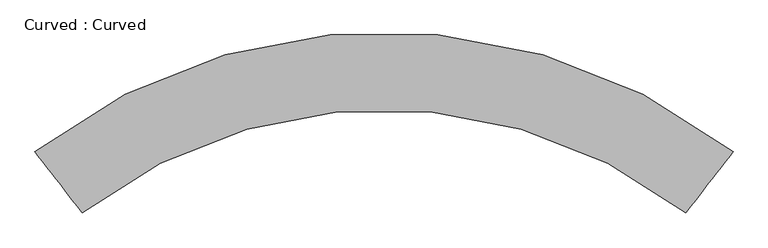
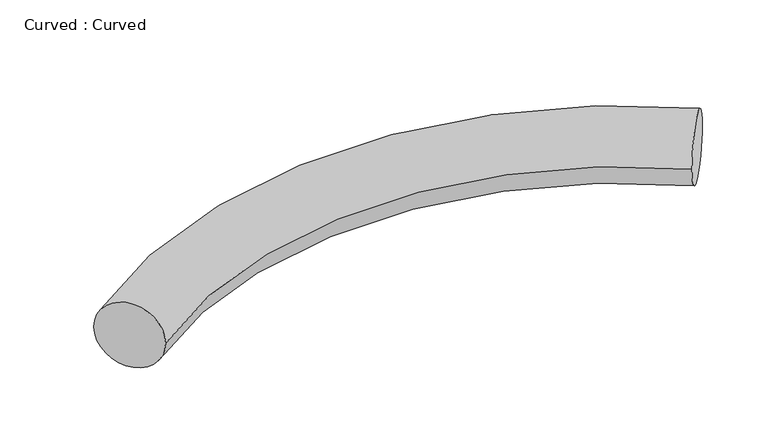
"""IFC4 building model written with IfcOpenShell, lengths in millimetres: proxy geometry, Curved : Curved."""

from ifc_helpers import new_model, si_unit, point, frame, origin, place, context, project, spatial, circle_curve, ellipse_curve, trimmed, source, transform, mapped, element, save
from ifc_brep_helpers import plane_surface, revolved_surface, advanced_brep


def curved_curved_8e5862ca(model_context):
    return source(origin(), model_context, "Body", "AdvancedBrep", [
        advanced_brep(
        [(18524.5761907, -8345.476282, 0.0), (18328.6023349, -8092.5054382, 0.0), (21028.6023349, -8345.476282, 0.0), (21224.5761907, -8092.5054382, 0.0)],
        [
            (0, 1, circle_curve(frame((18426.5892628, -8218.9908601, 0.0), z_axis=(-0.7905338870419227, -0.6124182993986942, 0.0), x_axis=(-0.6124182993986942, 0.7905338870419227, 0.0)), 160.0)),
            (1, 0, circle_curve(frame((18426.5892628, -8218.9908601, 0.0), z_axis=(-0.7905338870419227, -0.6124182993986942, 0.0), x_axis=(-0.6124182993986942, 0.7905338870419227, 0.0)), 160.0)),
            (2, 3, circle_curve(frame((21126.5892628, -8218.9908601, 0.0), z_axis=(0.790533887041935, -0.6124182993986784, 0.0), x_axis=(0.6124182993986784, 0.790533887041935, 0.0)), 160.0)),
            (3, 2, circle_curve(frame((21126.5892628, -8218.9908601, 0.0), z_axis=(0.790533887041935, -0.6124182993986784, 0.0), x_axis=(0.6124182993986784, 0.790533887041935, 0.0)), 160.0)),
            (3, 1, circle_curve(frame((19776.5892628, -9961.6245282, 0.0), z_axis=(0.0, 0.0, 1.0), x_axis=(-0.6124182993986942, 0.7905338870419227, 0.0)), 2364.3756715)),
            (0, 2, circle_curve(frame((19776.5892628, -9961.6245282, 0.0), z_axis=(0.0, 0.0, -1.0), x_axis=(-0.6124182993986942, 0.7905338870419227, 0.0)), 2044.3756715)),
        ],
        [
            plane_surface(frame((18426.5892628, -8218.9908601, 0.0), z_axis=(-0.7905338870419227, -0.6124182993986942, 0.0), x_axis=(0.0, 0.0, 1.0))),
            plane_surface(frame((21126.5892628, -8218.9908601, 0.0), z_axis=(0.790533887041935, -0.6124182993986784, 0.0), x_axis=(0.0, 0.0, 1.0))),
            revolved_surface(trimmed(ellipse_curve(frame((18426.5892628, -8218.9908601, 0.0), z_axis=(-0.7905338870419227, -0.6124182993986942, 0.0), x_axis=(-0.6124182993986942, 0.7905338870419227, 0.0)), 160.0, 160.0), [point((18524.5761907, -8345.476282, 0.0))], [point((18328.6023349, -8092.5054382, 0.0))], True, "CARTESIAN"), (19776.5892628, -9961.6245282, 0.0), (0.0, 0.0, -1.0)),
            revolved_surface(trimmed(ellipse_curve(frame((18426.5892628, -8218.9908601, 0.0), z_axis=(-0.7905338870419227, -0.6124182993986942, 0.0), x_axis=(-0.6124182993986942, 0.7905338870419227, 0.0)), 160.0, 160.0), [point((18328.6023349, -8092.5054382, 0.0))], [point((18524.5761907, -8345.476282, 0.0))], True, "CARTESIAN"), (19776.5892628, -9961.6245282, 0.0), (0.0, 0.0, -1.0)),
        ],
        [
            (0, [[1, 2]]),
            (1, [[3, 4]]),
            (2, [[5, -1, 6, -4]]),
            (3, [[-6, -2, -5, -3]]),
        ],
    ),
    ])


if __name__ == "__main__":
    model = new_model("IFC4")
    model_context = context("Model", 3, world=origin())
    ifc_project = project(units=[si_unit("LENGTHUNIT", "METRE", prefix="MILLI")], contexts=[model_context])
    site = spatial("IfcSite", under=ifc_project)
    building = spatial("IfcBuilding", under=site)
    placement = place(None, origin())
    curved_curved_shape = curved_curved_8e5862ca(model_context)
    element("IfcBuildingElementProxy", 1, Name="Curved : Curved", ObjectType="Curved : Curved", at=placement, inside=building, context=model_context, shape_type="MappedRepresentation", body=[
        mapped(curved_curved_shape, transform((0.0, 0.0, 0.0), x_axis=(1.0, 0.0, 0.0), y_axis=(0.0, 1.0, 0.0), z_axis=(0.0, 0.0, 1.0))),
    ])
    save(model, "model.ifc")
